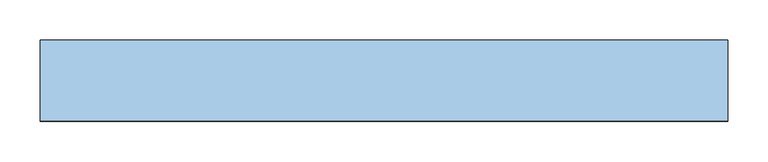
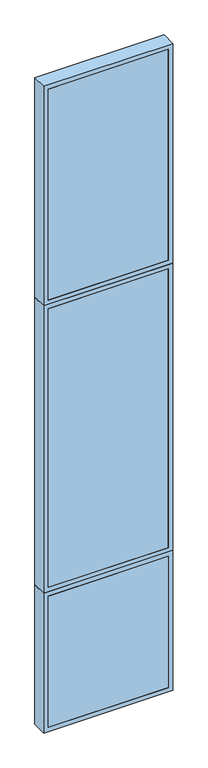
"""IFC4 building model written with IfcOpenShell, lengths in millimetres: window geometry, TRP_CP_ARC_FI_V1 : VE_VF2_85."""

from ifc_helpers import new_model, si_unit, frame, origin, place, context, project, spatial, polyline, outline, extrude, source, transform, mapped, element, save


def window_e819848c(model_context):
    return source(origin(), model_context, "Body", "SweptSolid", [
        extrude(outline(polyline([(395.0, -50.0), (-395.0, -50.0), (-395.0, -30.0), (395.0, -30.0), (395.0, -50.0)])), frame((0.0, 0.0, 30.0), z_axis=(0.0, 0.0, 1.0), x_axis=(1.0, 0.0, 0.0)), (0.0, 0.0, 1.0), 913.0),
        extrude(outline(polyline([(973.0, 425.0), (973.0, -425.0), (0.0, -425.0), (0.0, 425.0), (973.0, 425.0)]), holes=[polyline([(30.0, 395.0), (30.0, -395.0), (943.0, -395.0), (943.0, 395.0), (30.0, 395.0)])]), frame((0.0, -50.0, 0.0), z_axis=(0.0, 1.0, 0.0), x_axis=(0.0, 0.0, 1.0)), (0.0, 0.0, 1.0), 100.0),
        extrude(outline(polyline([(2973.0, 425.0), (2973.0, -425.0), (973.0, -425.0), (973.0, 425.0), (2973.0, 425.0)]), holes=[polyline([(1003.0, 395.0), (1003.0, -395.0), (2943.0, -395.0), (2943.0, 395.0), (1003.0, 395.0)])]), frame((0.0, -50.0, 0.0), z_axis=(0.0, 1.0, 0.0), x_axis=(0.0, 0.0, 1.0)), (0.0, 0.0, 1.0), 100.0),
        extrude(outline(polyline([(395.0, -50.0), (-395.0, -50.0), (-395.0, -30.0), (395.0, -30.0), (395.0, -50.0)])), frame((0.0, 0.0, 1003.0), z_axis=(0.0, 0.0, 1.0), x_axis=(1.0, 0.0, 0.0)), (0.0, 0.0, 1.0), 1940.0),
        extrude(outline(polyline([(4500.0, 425.0), (4500.0, -425.0), (2973.0, -425.0), (2973.0, 425.0), (4500.0, 425.0)]), holes=[polyline([(3003.0, 395.0), (3003.0, -395.0), (4470.0, -395.0), (4470.0, 395.0), (3003.0, 395.0)])]), frame((0.0, -50.0, 0.0), z_axis=(0.0, 1.0, 0.0), x_axis=(0.0, 0.0, 1.0)), (0.0, 0.0, 1.0), 100.0),
        extrude(outline(polyline([(395.0, -50.0), (-395.0, -50.0), (-395.0, -30.0), (395.0, -30.0), (395.0, -50.0)])), frame((0.0, 0.0, 3003.0), z_axis=(0.0, 0.0, 1.0), x_axis=(1.0, 0.0, 0.0)), (0.0, 0.0, 1.0), 1467.0),
    ])


if __name__ == "__main__":
    model = new_model("IFC4")
    model_context = context("Model", 3, world=origin())
    ifc_project = project(units=[si_unit("LENGTHUNIT", "METRE", prefix="MILLI")], contexts=[model_context])
    site = spatial("IfcSite", under=ifc_project)
    building = spatial("IfcBuilding", under=site)
    placement = place(None, origin())
    window_shape = window_e819848c(model_context)
    element("IfcWindow", 1, ObjectType="TRP_CP_ARC_FI_V1 : VE_VF2_85", at=placement, inside=building, context=model_context, shape_type="MappedRepresentation", body=[
        mapped(window_shape, transform((0.0, 0.0, 0.0), x_axis=(1.0, 0.0, 0.0), y_axis=(0.0, 1.0, 0.0), z_axis=(0.0, 0.0, 1.0))),
    ])
    save(model, "model.ifc")
